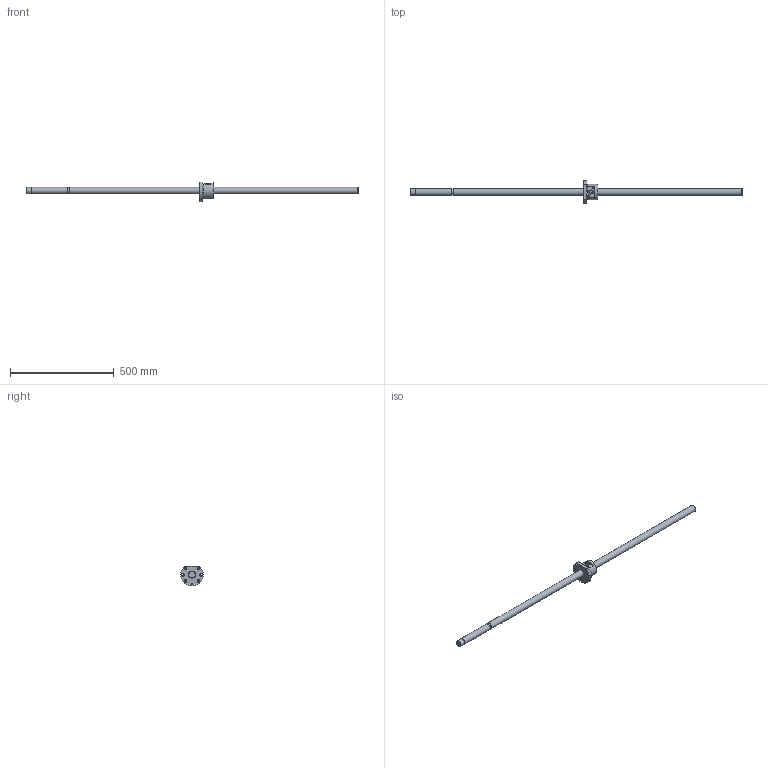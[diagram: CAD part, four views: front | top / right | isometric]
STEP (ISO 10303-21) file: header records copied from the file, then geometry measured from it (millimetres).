
FILE_DESCRIPTION((''),'2;1');
FILE_NAME('D:\製品 (図面)\カタログ用3D\ネジ関連\STEP形式\KBS(C)\KBS(C)3210-1600.stp','2010-06-02T14:23:51',('Tsuchiya'),(''),'Autodesk Inventor 10','Autodesk Inventor 10','');
FILE_SCHEMA(('AUTOMOTIVE_DESIGN { 1 0 10303 214 1 1 1 1 }'));
Length unit declared in the file: millimetre
Products named in the file (3): KBS(C)3210-1600; KBS(C)3210-16001; KBS(C)3210-16002
Assembly tree (2 placements, depth 2):
  KBS(C)3210-1600
    KBS(C)3210-16001
    KBS(C)3210-16002
Bounding box: 1600 x 108 x 95 mm (x, y, z)
Volume: 1560966.4 mm3; surface area: 206993.8 mm2
Topology: 2 solids, 2 shells, 95 faces, 231 edges, 152 vertices
Faces by surface type: plane 41, cylinder 32, bspline 16, cone 4, torus 2
Full cylindrical faces by diameter (mm): 6 x1, 6.4 x1, 7.4 x1, 9 x6, 14 x6, 27.2 x1, 31.5 x1, 32 x3, 34 x2, 74 x1
Entity records: 2871 total; most frequent: CARTESIAN_POINT 734, DIRECTION 408, ORIENTED_EDGE 380, EDGE_CURVE 190, EDGE_LOOP 160, AXIS2_PLACEMENT_3D 158, VERTEX_POINT 144, FACE_OUTER_BOUND 95
